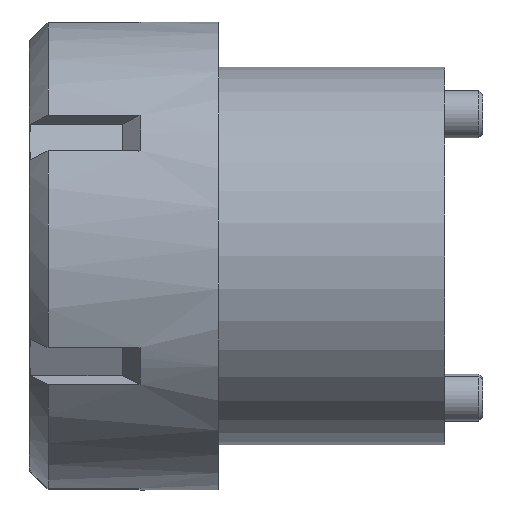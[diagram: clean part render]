
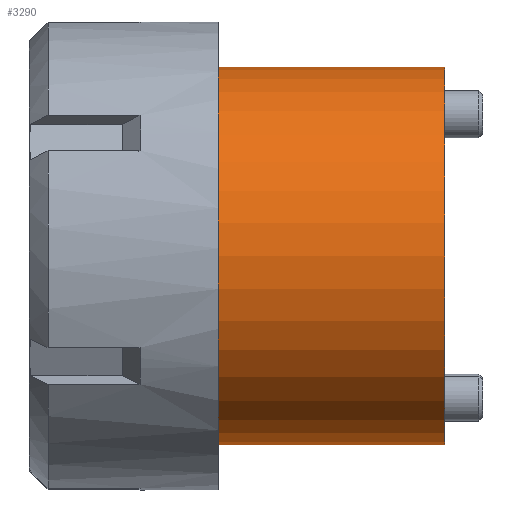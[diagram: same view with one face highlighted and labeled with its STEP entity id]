
A CAD part, left-side view. The second image highlights one B-rep face of the part: STEP entity #3290.
In plain terms, the highlighted cylindrical face has radius 25.4 mm (diameter 50.8 mm), a partial arc.
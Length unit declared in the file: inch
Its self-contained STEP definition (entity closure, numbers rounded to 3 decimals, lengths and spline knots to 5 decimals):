
#711 = CYLINDRICAL_SURFACE ( 'NONE', #25655, 1. ) ;
#1522 = ORIENTED_EDGE ( 'NONE', *, *, #19778, .T. ) ;
#1623 = EDGE_LOOP ( 'NONE', ( #9378, #13968, #1522, #6454 ) ) ;
#2573 = CARTESIAN_POINT ( 'NONE',  ( 0., -0.5, 1. ) ) ;
#3060 = CARTESIAN_POINT ( 'NONE',  ( 0., 1.5, 1. ) ) ;
#3290 = ADVANCED_FACE ( 'NONE', ( #18149 ), #711, .T. ) ;
#3868 = VERTEX_POINT ( 'NONE', #16365 ) ;
#3948 = VERTEX_POINT ( 'NONE', #2573 ) ;
#6454 = ORIENTED_EDGE ( 'NONE', *, *, #12652, .F. ) ;
#6585 = CARTESIAN_POINT ( 'NONE',  ( 0., 1.5, -1. ) ) ;
#6690 = CIRCLE ( 'NONE', #11926, 1. ) ;
#6894 = CARTESIAN_POINT ( 'NONE',  ( 0., 1.5, 0. ) ) ;
#7238 = DIRECTION ( 'NONE',  ( 0., -1., 0. ) ) ;
#8218 = CARTESIAN_POINT ( 'NONE',  ( 0., 0.75, 1. ) ) ;
#9378 = ORIENTED_EDGE ( 'NONE', *, *, #14191, .F. ) ;
#9878 = CARTESIAN_POINT ( 'NONE',  ( 0., 0.75, 0. ) ) ;
#10693 = DIRECTION ( 'NONE',  ( 0., 0., -1. ) ) ;
#11905 = DIRECTION ( 'NONE',  ( 0., 1., 0. ) ) ;
#11926 = AXIS2_PLACEMENT_3D ( 'NONE', #25367, #15558, #13330 ) ;
#12309 = VERTEX_POINT ( 'NONE', #20952 ) ;
#12652 = EDGE_CURVE ( 'NONE', #3948, #12309, #6690, .T. ) ;
#13068 = CIRCLE ( 'NONE', #25390, 1. ) ;
#13330 = DIRECTION ( 'NONE',  ( 0., 0., -1. ) ) ;
#13541 = VECTOR ( 'NONE', #7238, 39.37008 ) ;
#13968 = ORIENTED_EDGE ( 'NONE', *, *, #16099, .F. ) ;
#14191 = EDGE_CURVE ( 'NONE', #23316, #3948, #24378, .T. ) ;
#15558 = DIRECTION ( 'NONE',  ( 0., -1., 0. ) ) ;
#16099 = EDGE_CURVE ( 'NONE', #3868, #23316, #13068, .T. ) ;
#16365 = CARTESIAN_POINT ( 'NONE',  ( 0., 0.75, -1. ) ) ;
#16700 = DIRECTION ( 'NONE',  ( 0., -1., 0. ) ) ;
#18149 = FACE_OUTER_BOUND ( 'NONE', #1623, .T. ) ;
#19748 = VECTOR ( 'NONE', #16700, 39.37008 ) ;
#19778 = EDGE_CURVE ( 'NONE', #3868, #12309, #23602, .T. ) ;
#20952 = CARTESIAN_POINT ( 'NONE',  ( 0., -0.5, -1. ) ) ;
#23316 = VERTEX_POINT ( 'NONE', #8218 ) ;
#23602 = LINE ( 'NONE', #6585, #19748 ) ;
#24378 = LINE ( 'NONE', #3060, #13541 ) ;
#25021 = DIRECTION ( 'NONE',  ( 0., -1., 0. ) ) ;
#25367 = CARTESIAN_POINT ( 'NONE',  ( 0., -0.5, 0. ) ) ;
#25390 = AXIS2_PLACEMENT_3D ( 'NONE', #9878, #11905, #26138 ) ;
#25655 = AXIS2_PLACEMENT_3D ( 'NONE', #6894, #25021, #10693 ) ;
#26138 = DIRECTION ( 'NONE',  ( 0., 0., 1. ) ) ;
